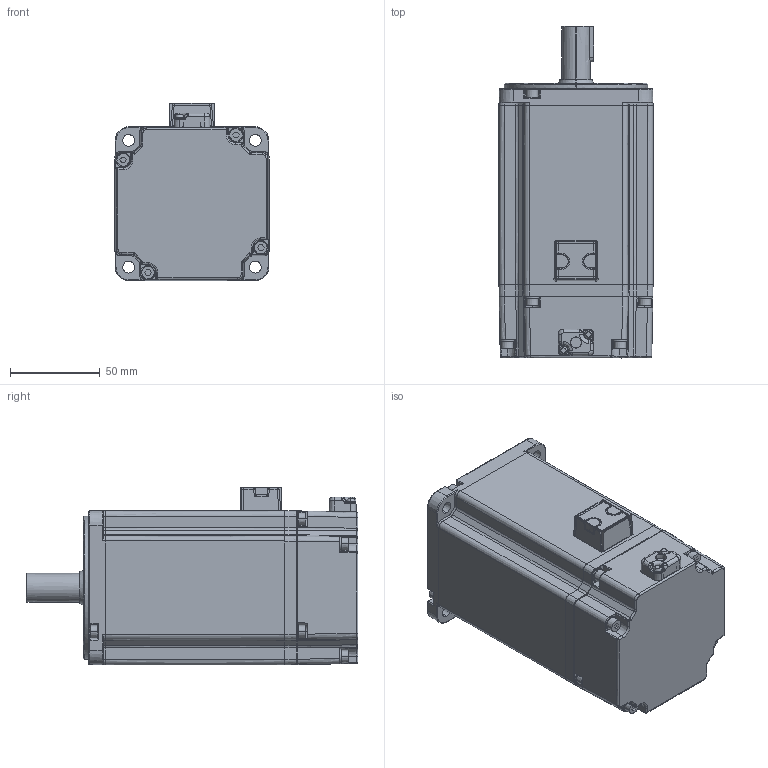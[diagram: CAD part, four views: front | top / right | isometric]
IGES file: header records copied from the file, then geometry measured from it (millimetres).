
Start section:  PTC IGES file: ecma_c30910pc.igs
Global section: file name: ecma_c30910pc.igs; native system: Pro/ENGINEER by Parametric Technology Corporation; preprocessor: 2001360; author: KUANG.YI; organization: Unknown; date: 080901.162001; units: millimetre
Bounding box: 86 x 185.2 x 99.12 mm (x, y, z)
Surface area: 209552.4 mm2 (no closed solid volume)
Topology: 0 solids, 0 shells, 1488 faces, 7291 edges, 7386 vertices
Faces by surface type: bspline 1488
